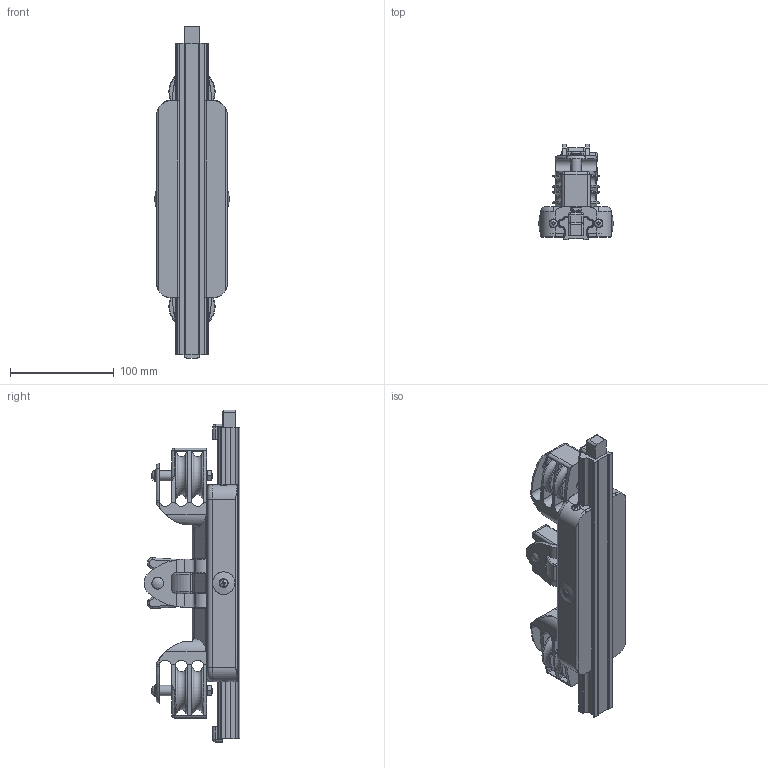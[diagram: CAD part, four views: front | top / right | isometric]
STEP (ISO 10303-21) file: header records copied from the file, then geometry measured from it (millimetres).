
FILE_DESCRIPTION(/* description */ (''),/* implementation_level */ '2;1');
FILE_NAME(/* name */ 'D:\Utenti\lucade\Desktop\4195.stp',/* time_stamp */ '2020-08-17T11:00:31+02:00',/* author */ ('lucade'),/* organization */ (''),/* preprocessor_version */ 'ST-DEVELOPER v18.1',/* originating_system */ 'Autodesk Inventor 2021',/* authorisation */ '');
FILE_SCHEMA (('AUTOMOTIVE_DESIGN { 1 0 10303 214 3 1 1 }'));
Length unit declared in the file: millimetre
Products named in the file (1): 4195
Bounding box: 71.95 x 92.07 x 319.8 mm (x, y, z)
Volume: 671695.5 mm3; surface area: 135060.8 mm2
Topology: 1 solids, 6 shells, 1177 faces, 3156 edges, 1970 vertices
Faces by surface type: plane 431, cylinder 408, torus 144, bspline 109, cone 62, sphere 23
Full cylindrical faces by diameter (mm): 2.5 x1, 3.5 x2, 3.6 x2, 6 x8, 6.2 x10, 6.4 x2, 6.8 x2, 7.8 x2, 8 x2, 8.2 x2, 8.4 x2, 8.5 x6, 10 x5, 10.2 x2, 10.5 x12, 11.7 x6, 17 x2, 28 x6
Entity records: 42163 total; most frequent: CARTESIAN_POINT 13347, ORIENTED_EDGE 6250, DIRECTION 6001, EDGE_CURVE 3125, AXIS2_PLACEMENT_3D 2412, VERTEX_POINT 1972, EDGE_LOOP 1267, CIRCLE 1240
